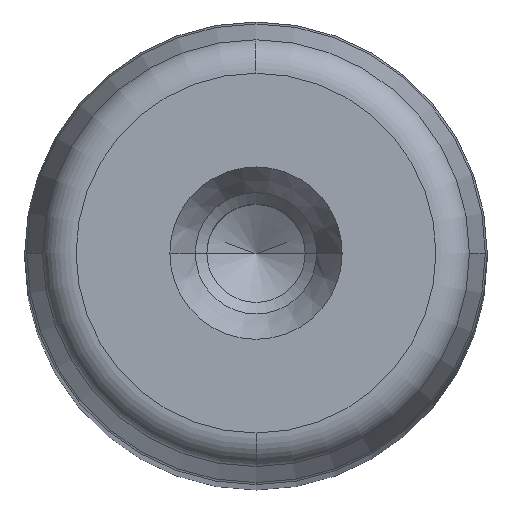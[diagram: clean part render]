
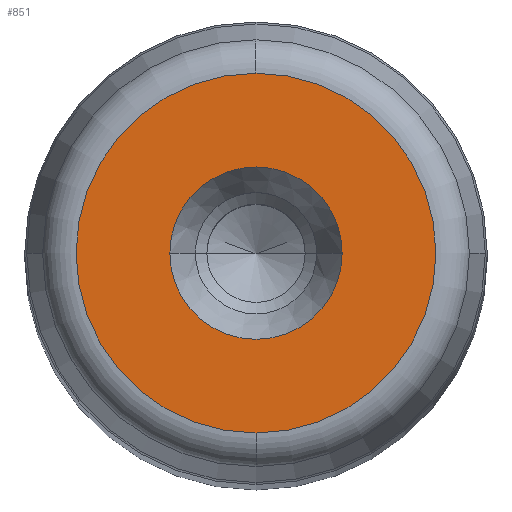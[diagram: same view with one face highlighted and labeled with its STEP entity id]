
A CAD part, top view. The second image highlights one B-rep face of the part: STEP entity #851.
In plain terms, the highlighted planar face has unit normal (0, 0, 1) as drawn and (0, 1, 0) by its records, which use the part's own axes.
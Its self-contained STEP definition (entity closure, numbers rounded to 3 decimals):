
#281=CARTESIAN_POINT('',(7.45,280.0,0.0));
#282=VERTEX_POINT('',#281);
#289=CARTESIAN_POINT('',(-7.45,280.0,0.));
#290=VERTEX_POINT('',#289);
#291=CARTESIAN_POINT('',(0.0,280.0,0.0));
#292=DIRECTION('',(0.0,1.0,0.0));
#293=DIRECTION('',(1.0,0.0,0.0));
#294=AXIS2_PLACEMENT_3D('',#291,#292,#293);
#295=CIRCLE('',#294,7.45);
#296=EDGE_CURVE('',#282,#290,#295,.T.);
#313=CARTESIAN_POINT('',(0.0,280.0,15.554));
#314=VERTEX_POINT('',#313);
#324=CARTESIAN_POINT('',(0.,280.0,-15.554));
#325=VERTEX_POINT('',#324);
#326=CARTESIAN_POINT('',(0.0,280.0,0.0));
#327=DIRECTION('',(0.0,1.0,0.0));
#328=DIRECTION('',(1.0,0.0,0.0));
#329=AXIS2_PLACEMENT_3D('',#326,#327,#328);
#330=CIRCLE('',#329,15.554);
#331=EDGE_CURVE('',#325,#314,#330,.T.);
#812=CARTESIAN_POINT('',(15.554,280.0,0.0));
#813=VERTEX_POINT('',#812);
#814=CARTESIAN_POINT('',(0.0,280.0,0.0));
#815=DIRECTION('',(0.0,1.0,0.0));
#816=DIRECTION('',(1.0,0.0,0.0));
#817=AXIS2_PLACEMENT_3D('',#814,#815,#816);
#818=CIRCLE('',#817,15.554);
#819=EDGE_CURVE('',#813,#325,#818,.T.);
#821=CARTESIAN_POINT('',(0.0,280.0,0.0));
#822=DIRECTION('',(0.0,1.0,0.0));
#823=DIRECTION('',(1.0,0.0,0.0));
#824=AXIS2_PLACEMENT_3D('',#821,#822,#823);
#825=CIRCLE('',#824,15.554);
#826=EDGE_CURVE('',#314,#813,#825,.T.);
#831=CARTESIAN_POINT('',(-17.11,280.0,-17.11));
#832=DIRECTION('',(0.0,1.0,0.0));
#833=DIRECTION('',(0.0,0.0,1.0));
#834=AXIS2_PLACEMENT_3D('',#831,#832,#833);
#835=PLANE('',#834);
#836=ORIENTED_EDGE('',*,*,#819,.T.);
#837=ORIENTED_EDGE('',*,*,#331,.T.);
#838=ORIENTED_EDGE('',*,*,#826,.T.);
#839=EDGE_LOOP('',(#836,#837,#838));
#840=FACE_OUTER_BOUND('',#839,.T.);
#841=ORIENTED_EDGE('',*,*,#296,.F.);
#842=CARTESIAN_POINT('',(0.0,280.0,0.0));
#843=DIRECTION('',(0.0,1.0,0.0));
#844=DIRECTION('',(1.0,0.0,0.0));
#845=AXIS2_PLACEMENT_3D('',#842,#843,#844);
#846=CIRCLE('',#845,7.45);
#847=EDGE_CURVE('',#290,#282,#846,.T.);
#848=ORIENTED_EDGE('',*,*,#847,.F.);
#849=EDGE_LOOP('',(#841,#848));
#850=FACE_BOUND('',#849,.T.);
#851=ADVANCED_FACE('',(#840,#850),#835,.T.);
